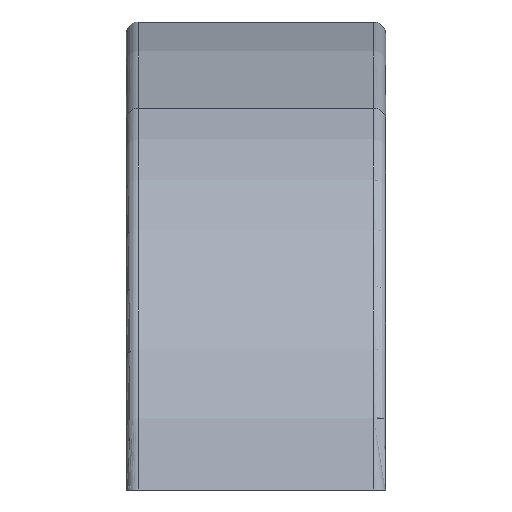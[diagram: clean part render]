
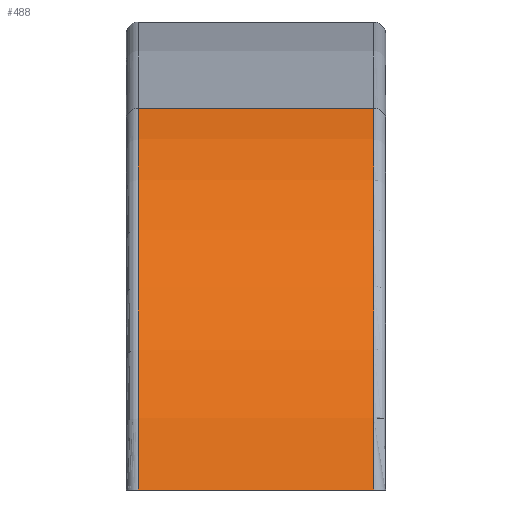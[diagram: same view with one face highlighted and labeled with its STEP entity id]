
A CAD part, front view. The second image highlights one B-rep face of the part: STEP entity #488.
In plain terms, the highlighted cylindrical face has radius 20.662 mm (diameter 41.325 mm), a partial arc.
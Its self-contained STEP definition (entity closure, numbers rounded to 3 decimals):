
#29=LINE('',#824,#51);
#38=LINE('',#954,#60);
#51=VECTOR('',#635,10.);
#60=VECTOR('',#700,10.);
#105=CYLINDRICAL_SURFACE('',#557,20.662);
#132=FACE_OUTER_BOUND('',#168,.T.);
#168=EDGE_LOOP('',(#427,#428,#429,#430));
#203=CIRCLE('',#548,20.662);
#208=CIRCLE('',#558,20.662);
#232=VERTEX_POINT('',#812);
#233=VERTEX_POINT('',#823);
#249=VERTEX_POINT('',#921);
#252=VERTEX_POINT('',#953);
#282=EDGE_CURVE('',#232,#233,#29,.T.);
#308=EDGE_CURVE('',#233,#249,#203,.T.);
#314=EDGE_CURVE('',#249,#252,#38,.T.);
#316=EDGE_CURVE('',#252,#232,#208,.T.);
#427=ORIENTED_EDGE('',*,*,#308,.F.);
#428=ORIENTED_EDGE('',*,*,#282,.F.);
#429=ORIENTED_EDGE('',*,*,#316,.F.);
#430=ORIENTED_EDGE('',*,*,#314,.F.);
#488=ADVANCED_FACE('',(#132),#105,.T.);
#548=AXIS2_PLACEMENT_3D('',#932,#683,#684);
#557=AXIS2_PLACEMENT_3D('',#956,#703,#704);
#558=AXIS2_PLACEMENT_3D('',#957,#705,#706);
#635=DIRECTION('',(-1.,0.,0.));
#683=DIRECTION('center_axis',(-1.,0.,0.));
#684=DIRECTION('ref_axis',(0.,-0.777,0.629));
#700=DIRECTION('',(1.,0.,0.));
#703=DIRECTION('center_axis',(1.,0.,0.));
#704=DIRECTION('ref_axis',(0.,-0.355,0.935));
#705=DIRECTION('center_axis',(1.,0.,0.));
#706=DIRECTION('ref_axis',(0.,-0.777,0.629));
#812=CARTESIAN_POINT('',(5.,0.,0.));
#823=CARTESIAN_POINT('',(-5.,0.,0.));
#824=CARTESIAN_POINT('',(0.,0.,0.));
#921=CARTESIAN_POINT('',(-5.,13.092,16.185));
#932=CARTESIAN_POINT('Origin',(-5.,20.423,-3.133));
#953=CARTESIAN_POINT('',(5.,13.092,16.185));
#954=CARTESIAN_POINT('',(0.,13.092,16.185));
#956=CARTESIAN_POINT('Origin',(0.,20.423,-3.133));
#957=CARTESIAN_POINT('Origin',(5.,20.423,-3.133));
